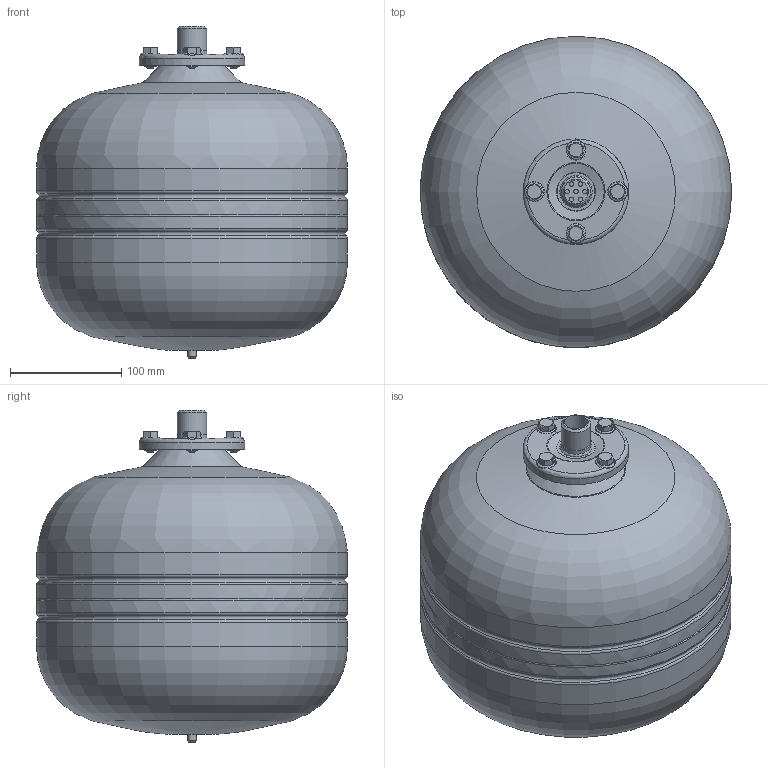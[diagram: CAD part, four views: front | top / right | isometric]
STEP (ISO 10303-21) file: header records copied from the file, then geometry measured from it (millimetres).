
FILE_DESCRIPTION(('STEP AP214'), '1');
FILE_NAME('WAV-12', '', ('UNSPECIFIED'), ('UNSPECIFIED'), 'ASCON STEP Converter 1.3', 'ASCON Math Kernel', '');
FILE_SCHEMA(('AUTOMOTIVE_DESIGN { 1 0 10303 214 3 1 1}'));
Length unit declared in the file: millimetre
Bounding box: 280.53 x 280.53 x 299 mm (x, y, z)
Volume: 12519248.5 mm3; surface area: 287085.5 mm2
Topology: 8 solids, 9 shells, 225 faces, 545 edges, 361 vertices
Faces by surface type: plane 118, cylinder 37, cone 27, torus 25, bspline 16, sphere 2
Full cylindrical faces by diameter (mm): 4 x7, 5.5 x1, 8 x9, 9 x4, 10.6 x4, 21.2 x1, 26.442 x1, 26.8 x1, 95 x1, 280 x4
Entity records: 12692 total; most frequent: CARTESIAN_POINT 5762, DIRECTION 1074, ORIENTED_EDGE 946, AXIS2_PLACEMENT_3D 486, EDGE_CURVE 473, VERTEX_POINT 359, EDGE_LOOP 326, FACE_BOUND 304
